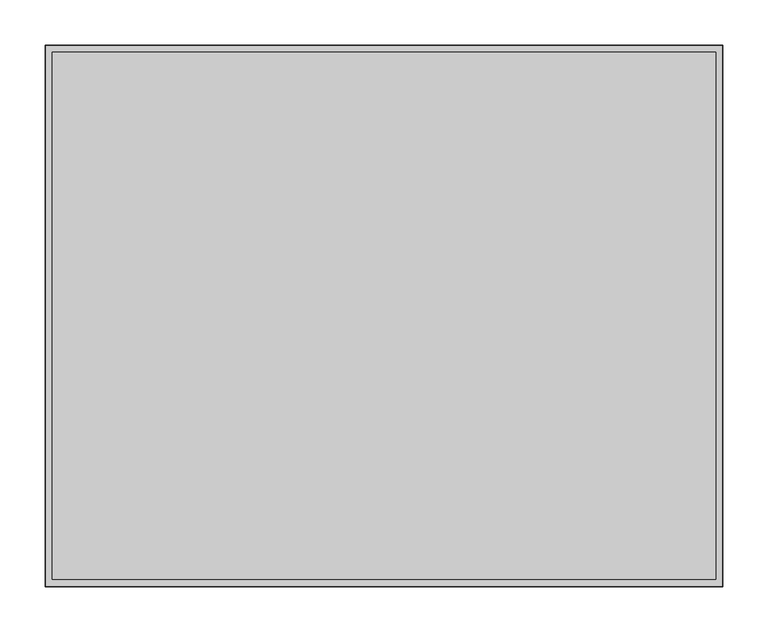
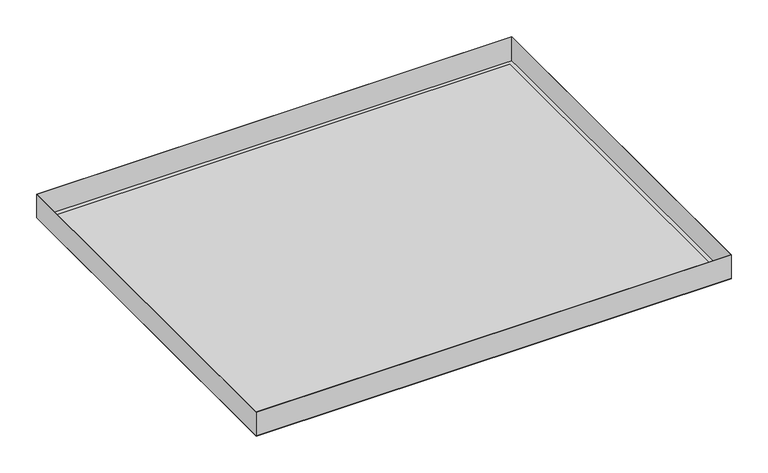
"""IFC4 building model written with IfcOpenShell, lengths in millimetres: proxy geometry, durlum_S5-100_panel : durlum_S5-100_panel_wall_length_cut."""

from ifc_helpers import new_model, si_unit, frame, origin, origin_with_axes, place, context, project, spatial, polyline, outline, extrude, source, transform, mapped, element, save


def generic_models_8e043421(model_context):
    return source(origin(), model_context, "Body", "SweptSolid", [
        extrude(outline(polyline([(374.75, 299.75), (374.75, -299.75), (-374.75, -299.75), (-374.75, 299.75), (374.75, 299.75)]), holes=[polyline([(374.15, 299.15), (-374.15, 299.15), (-374.15, -299.15), (374.15, -299.15), (374.15, 299.15)])]), frame((0.0, 0.0, 0.6), z_axis=(0.0, 0.0, 1.0), x_axis=(1.0, 0.0, 0.0)), (0.0, 0.0, 1.0), 39.4),
        extrude(outline(polyline([(366.75, 291.75), (366.75, -291.75), (-366.75, -291.75), (-366.75, 291.75), (366.75, 291.75)])), frame((0.0, 0.0, 0.6), z_axis=(0.0, 0.0, 1.0), x_axis=(1.0, 0.0, 0.0)), (0.0, 0.0, 1.0), 0.6),
        extrude(outline(polyline([(374.75, 299.75), (374.75, -299.75), (-374.75, -299.75), (-374.75, 299.75), (374.75, 299.75)]), holes=[polyline([(366.75, 291.75), (-366.75, 291.75), (-366.75, -291.75), (366.75, -291.75), (366.75, 291.75)])]), origin_with_axes(), (0.0, 0.0, 1.0), 0.6),
        extrude(outline(polyline([(366.75, 291.75), (366.75, -291.75), (-366.75, -291.75), (-366.75, 291.75), (366.75, 291.75)])), origin_with_axes(), (0.0, 0.0, 1.0), 0.6),
    ])


if __name__ == "__main__":
    model = new_model("IFC4")
    model_context = context("Model", 3, world=origin())
    ifc_project = project(units=[si_unit("LENGTHUNIT", "METRE", prefix="MILLI")], contexts=[model_context])
    site = spatial("IfcSite", under=ifc_project)
    building = spatial("IfcBuilding", under=site)
    placement = place(None, origin())
    generic_models_shape = generic_models_8e043421(model_context)
    element("IfcBuildingElementProxy", 1, Name="durlum_S5-100_panel : durlum_S5-100_panel_wall_length_cut", ObjectType="durlum_S5-100_panel : durlum_S5-100_panel_wall_length_cut", at=placement, inside=building, context=model_context, shape_type="MappedRepresentation", body=[
        mapped(generic_models_shape, transform((0.0, 0.0, 0.0), x_axis=(1.0, 0.0, 0.0), y_axis=(0.0, 1.0, 0.0), z_axis=(0.0, 0.0, 1.0))),
    ])
    save(model, "model.ifc")
